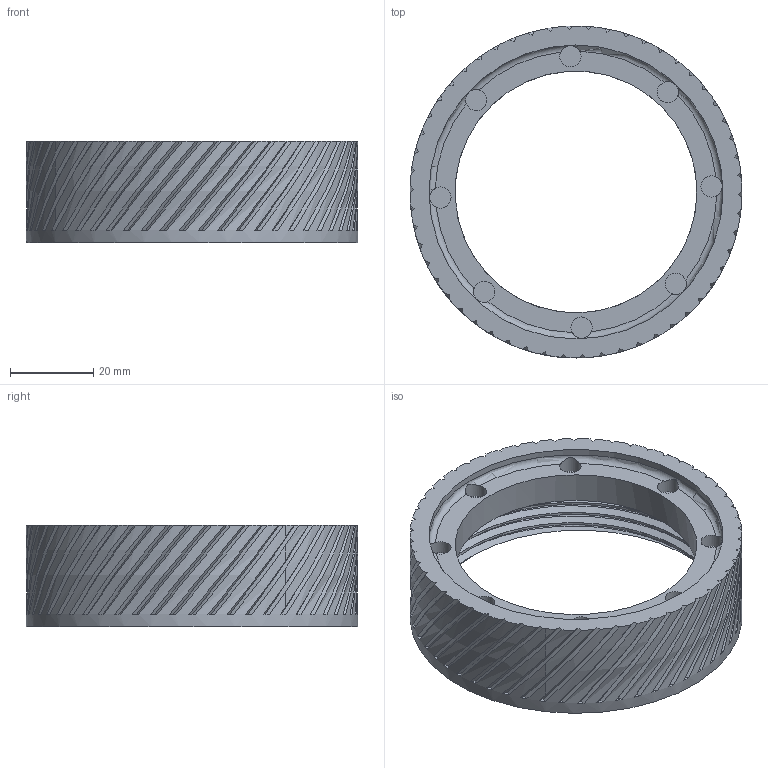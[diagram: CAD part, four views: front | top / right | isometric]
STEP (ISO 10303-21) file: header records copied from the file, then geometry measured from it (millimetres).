
FILE_DESCRIPTION(/* description */ ('STEP AP242','CAx-IF Rec.Pracs.---Representation and Presentation of Product Manufacturing Information (PMI)---4.0---2014-10-13','CAx-IF Rec.Pracs.---3D Tessellated Geometry---0.4---2014-09-14','2;1'),/* implementation_level */ '2;1');
FILE_NAME(/* name */ '646924adcac4670533c20b55',/* time_stamp */ '2023-05-20T19:51:09Z',/* author */ (''),/* organization */ (''),/* preprocessor_version */ 'ST-DEVELOPER v19.4',/* originating_system */ ' ',/* authorisation */ ' ');
FILE_SCHEMA (('AP242_MANAGED_MODEL_BASED_3D_ENGINEERING_MIM_LF { 1 0 10303 442 1 1 4 }'));
Length unit declared in the file: metre
Products named in the file (1): Base 23mm Magnet NoLug
Bounding box: 79.6 x 79.6 x 24.4 mm (x, y, z)
Volume: 34300.1 mm3; surface area: 18091.4 mm2
Topology: 1 solids, 1 shells, 250 faces, 736 edges, 491 vertices
Faces by surface type: bspline 153, plane 77, cylinder 16, cone 3, torus 1
Full cylindrical faces by diameter (mm): 5.1 x8, 58 x1, 70.5 x1, 79.6 x1
Entity records: 14848 total; most frequent: CARTESIAN_POINT 9994, ORIENTED_EDGE 1398, EDGE_CURVE 699, DIRECTION 523, VERTEX_POINT 471, B_SPLINE_CURVE_WITH_KNOTS 343, EDGE_LOOP 264, FACE_BOUND 264
